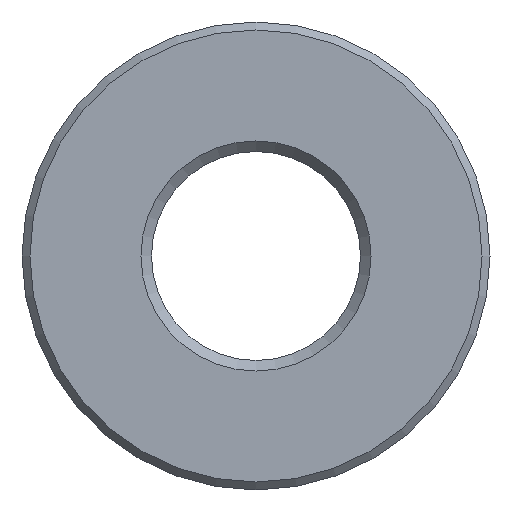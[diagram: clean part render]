
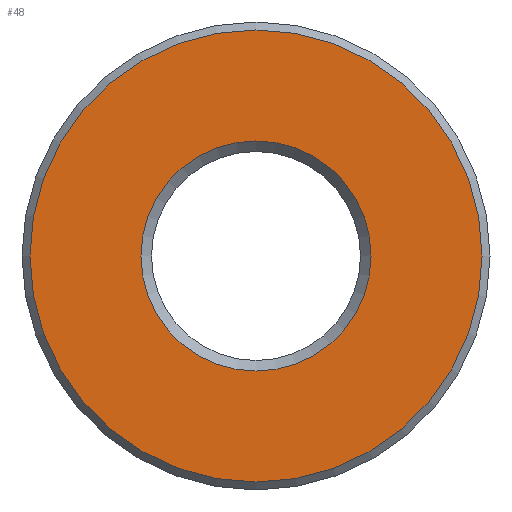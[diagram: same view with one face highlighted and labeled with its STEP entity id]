
A CAD part, left-side view. The second image highlights one B-rep face of the part: STEP entity #48.
In plain terms, the highlighted planar face has unit normal (-1, 0, 0).
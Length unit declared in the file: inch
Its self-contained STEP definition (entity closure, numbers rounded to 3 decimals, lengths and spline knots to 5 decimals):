
#48 = ADVANCED_FACE( '', ( #101, #102 ), #103, .F. );
#101 = FACE_OUTER_BOUND( '', #156, .T. );
#102 = FACE_BOUND( '', #157, .T. );
#103 = PLANE( '', #158 );
#156 = EDGE_LOOP( '', ( #217 ) );
#157 = EDGE_LOOP( '', ( #218 ) );
#158 = AXIS2_PLACEMENT_3D( '', #219, #220, #221 );
#217 = ORIENTED_EDGE( '', *, *, #259, .F. );
#218 = ORIENTED_EDGE( '', *, *, #267, .T. );
#219 = CARTESIAN_POINT( '', ( 0., 0., 0. ) );
#220 = DIRECTION( '', ( 1., 0., 0. ) );
#221 = DIRECTION( '', ( 0., 0., -1. ) );
#259 = EDGE_CURVE( '', #287, #287, #288, .T. );
#267 = EDGE_CURVE( '', #299, #299, #300, .T. );
#287 = VERTEX_POINT( '', #323 );
#288 = CIRCLE( '', #324, 0.42594 );
#299 = VERTEX_POINT( '', #335 );
#300 = CIRCLE( '', #336, 0.21685 );
#323 = CARTESIAN_POINT( '', ( 0., 0., -0.42594 ) );
#324 = AXIS2_PLACEMENT_3D( '', #360, #361, #362 );
#335 = CARTESIAN_POINT( '', ( 0., 0., -0.21685 ) );
#336 = AXIS2_PLACEMENT_3D( '', #372, #373, #374 );
#360 = CARTESIAN_POINT( '', ( 0., 0., 0. ) );
#361 = DIRECTION( '', ( 1., 0., 0. ) );
#362 = DIRECTION( '', ( 0., 0., -1. ) );
#372 = CARTESIAN_POINT( '', ( 0., 0., 0. ) );
#373 = DIRECTION( '', ( 1., 0., 0. ) );
#374 = DIRECTION( '', ( 0., 0., -1. ) );
